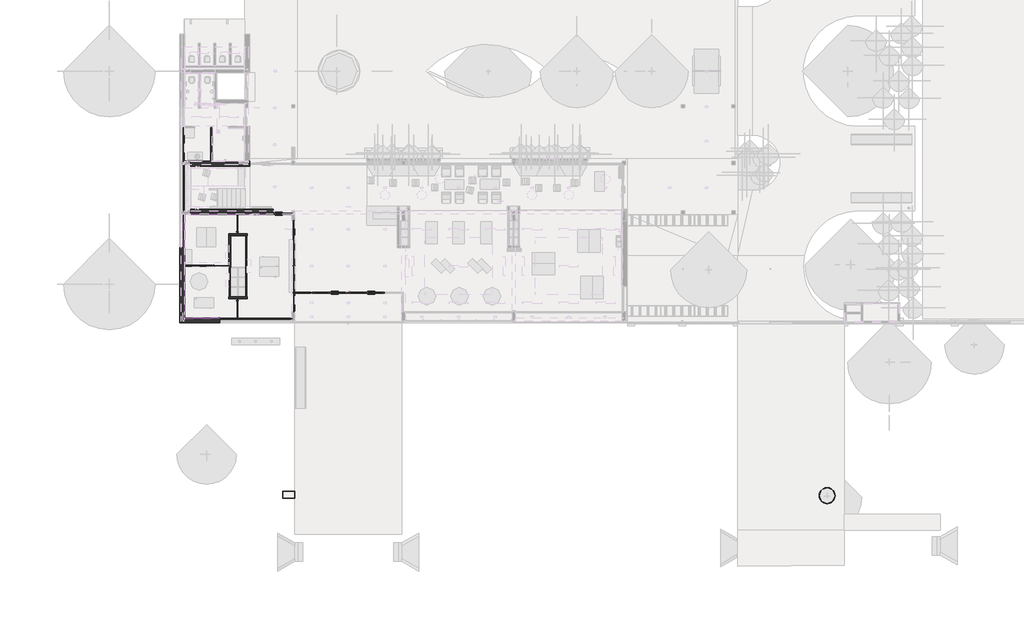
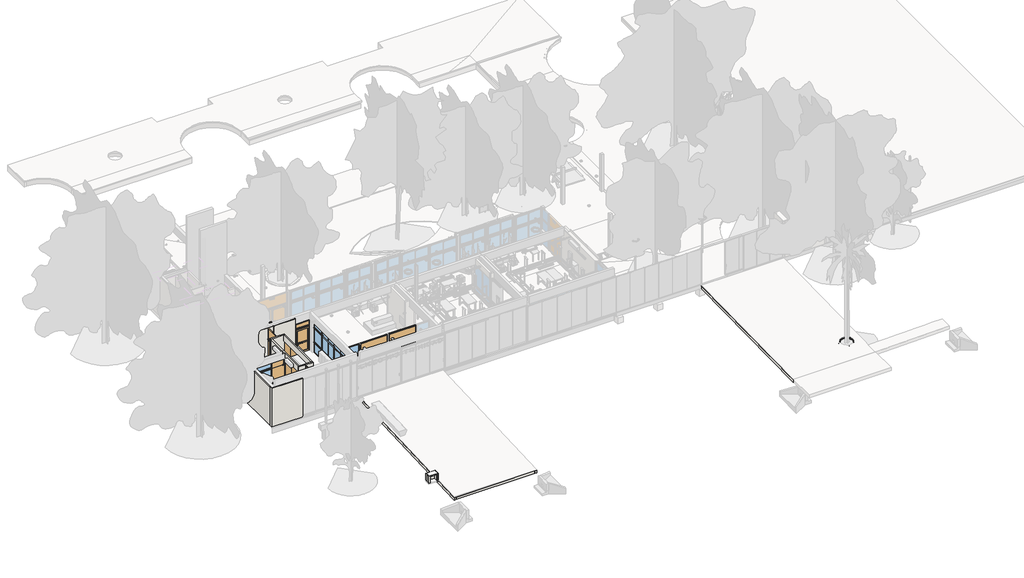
# One storey, part 1 of 22: 28 walls, 9 windows, 8 doors, 3 proxies.
"""IFC4 building model written with IfcOpenShell, lengths in millimetres."""

from ifc_helpers import new_model, si_unit, frame, origin, origin_with_axes, place, context, project, spatial, polyline, circle_curve, ellipse_curve, outline, extrude, faceted_brep, transform, mapped, element, save
from ifc_brep_helpers import plane_surface, cylinder_surface, revolved_surface, advanced_brep
from components import door_3974ce79, door_9b7d2ef3, door_4a2cc50b, door_8208235d, door_8a4f658c, door_8d857a0f, door_438542e8, window_07e8df99, window_2e903966, window_6422c5cf, window_60c9f324, window_36055f7e, a16_ventana_pc_1_hoja_a16_3_ventana_pc_1_hoja_100x310_444eb42e, a16_ventana_pc_1_hoja_a16_5_ventana_pc_1_hoja_115x260_6798fd23, a16_ventana_pc_1_hoja_a16_7_ventana_pc_1_hoja_171x260_4f929025

model = new_model("IFC4")

# Units and contexts
model_context = context("Model", 3, world=origin())
ifc_project = project(units=[si_unit("LENGTHUNIT", "METRE", prefix="MILLI")], contexts=[model_context])

# Site, building, storey
site = spatial("IfcSite", under=ifc_project)
building = spatial("IfcBuilding", under=site)
storey = spatial("IfcBuildingStorey", under=building, Name="PLanta baja", Elevation=0.0)

# Proxies
placement = place(None, origin())
element("IfcBuildingElementProxy", 1, Name="23-TEL-JUNTA 10x10", ObjectType="23-TEL-JUNTA 10x10", at=placement, inside=storey, context=model_context, shape_type="SweptSolid", body=[
    extrude(outline(polyline([(7168.7173694, 7005.2304035), (7168.7173694, 7015.2304035), (8938.7173694, 7015.2304035), (8938.7173694, 7005.2304035), (7168.7173694, 7005.2304035)])), frame((0.0, 0.0, 3090.0), z_axis=(0.0, 0.0, 1.0), x_axis=(1.0, 0.0, 0.0)), (0.0, 0.0, 1.0), 10.0),
    extrude(outline(polyline([(3788.7173693, 7005.2304035), (3788.7173693, 7015.2304035), (7168.7173694, 7015.2304035), (7168.7173694, 7005.2304035), (3788.7173693, 7005.2304035)])), frame((0.0, 0.0, 3090.0), z_axis=(0.0, 0.0, 1.0), x_axis=(1.0, 0.0, 0.0)), (0.0, 0.0, 1.0), 10.0),
])
element("IfcBuildingElementProxy", 2, Name="23-TEL-JUNTA 10x10", ObjectType="23-TEL-JUNTA 10x10", at=placement, inside=storey, context=model_context, shape_type="SweptSolid", body=[
    extrude(outline(polyline([(3403.7173694, 510.2304035), (3393.7173694, 500.2304035), (3393.7173694, 4919.6164813), (3403.7173694, 4919.6164813), (3403.7173694, 510.2304035)])), frame((0.0, 0.0, 3090.0), z_axis=(0.0, 0.0, 1.0), x_axis=(1.0, 0.0, 0.0)), (0.0, 0.0, 1.0), 10.0),
    extrude(outline(polyline([(3393.7173694, 7020.2304035), (3403.7173694, 7020.2304035), (3403.7173694, 4919.6164813), (3393.7173694, 4919.6164813), (3393.7173694, 7020.2304035)])), frame((0.0, 0.0, 3090.0), z_axis=(0.0, 0.0, 1.0), x_axis=(1.0, 0.0, 0.0)), (0.0, 0.0, 1.0), 10.0),
])
element("IfcBuildingElementProxy", 3, Name="23-TEL-JUNTA 10x10", ObjectType="23-TEL-JUNTA 10x10", at=placement, inside=storey, context=model_context, shape_type="SweptSolid", body=[
    extrude(outline(polyline([(5588.7173693, 510.2304035), (5588.7173693, 500.2304035), (3393.7173694, 500.2304035), (3403.7173694, 510.2304035), (5588.7173693, 510.2304035)])), frame((0.0, 0.0, 3090.0), z_axis=(0.0, 0.0, 1.0), x_axis=(1.0, 0.0, 0.0)), (0.0, 0.0, 1.0), 10.0),
])

# Doors
door_shape = door_3974ce79(model_context)
element("IfcDoor", 4, ObjectType="C5 Puerta corrediza placar 4 hojas : C5 PUERTA CORREDIZA PLACAR 4 HOJAS 384x260", at=placement, inside=storey, context=model_context, shape_type="MappedRepresentation", body=[
    mapped(door_shape, transform((7256.2173693, 3760.2304035, -50.0), x_axis=(0.0, -1.0, 0.0), y_axis=(1.0, 0.0, 0.0), z_axis=(0.0, 0.0, 1.0))),
])
door_2_shape = door_9b7d2ef3(model_context)
element("IfcDoor", 5, ObjectType="C4 Puerta corrediza placar 2 hojas : C4.1 PUERTA CORREDIZA PLACAR 2 HOJAS 185x260", at=placement, inside=storey, context=model_context, shape_type="MappedRepresentation", body=[
    mapped(door_2_shape, transform((6221.2173693, 2760.2304035, -50.0), x_axis=(0.0, -1.0, 0.0), y_axis=(1.0, 0.0, 0.0), z_axis=(0.0, 0.0, 1.0))),
])
door_3_shape = door_4a2cc50b(model_context)
element("IfcDoor", 6, ObjectType="A1 Puerta batiente doble  VF superior : A1.1 Puerta batiente doble  VF superior 222x310", at=placement, inside=storey, context=model_context, shape_type="MappedRepresentation", body=[
    mapped(door_3_shape, transform((12488.7173693, 2107.7304035, 0.0), x_axis=(-1.0, 0.0, 0.0), y_axis=(0.0, -1.0, 0.0), z_axis=(0.0, 0.0, 1.0))),
])
element("IfcDoor", 7, ObjectType="A1 Puerta batiente doble  VF superior : A1.1 Puerta batiente doble  VF superior 222x310", at=placement, inside=storey, context=model_context, shape_type="MappedRepresentation", body=[
    mapped(door_3_shape, transform((14788.7173694, 2107.7304035, 0.0), x_axis=(-1.0, 0.0, 0.0), y_axis=(0.0, -1.0, 0.0), z_axis=(0.0, 0.0, 1.0))),
])
door_4_shape = door_8208235d(model_context)
element("IfcDoor", 8, ObjectType="V03 VIDRIO PUERTA BATIENTE VIDRIO FIJO SUPERIOR : V03.2 VIDRIO PUERTA BATIENTE VIDRIO FIJO SUPERIOR 105x310", at=placement, inside=storey, context=model_context, shape_type="MappedRepresentation", body=[
    mapped(door_4_shape, transform((6701.2173694, 6210.2304035, 0.0), x_axis=(0.0, -1.0, 0.0), y_axis=(1.0, 0.0, 0.0), z_axis=(0.0, 0.0, 1.0))),
])
door_5_shape = door_8a4f658c(model_context)
element("IfcDoor", 9, ObjectType="V03 VIDRIO PUERTA BATIENTE VIDRIO FIJO SUPERIOR : V03.1 VIDRIO PUERTA BATIENTE VIDRIO FIJO SUPERIOR 105x260", at=placement, inside=storey, context=model_context, shape_type="MappedRepresentation", body=[
    mapped(door_5_shape, transform((5368.7173693, 3782.7304035, 0.0), x_axis=(-1.0, 0.0, 0.0), y_axis=(0.0, -1.0, 0.0), z_axis=(0.0, 0.0, 1.0))),
])
door_6_shape = door_8d857a0f(model_context)
element("IfcDoor", 10, ObjectType="V03 VIDRIO PUERTA BATIENTE VIDRIO FIJO SUPERIOR : V03.2 VIDRIO PUERTA BATIENTE VIDRIO FIJO SUPERIOR 105x310", at=placement, inside=storey, context=model_context, shape_type="MappedRepresentation", body=[
    mapped(door_6_shape, transform((6701.2173694, 1305.2304035, 0.0), x_axis=(0.0, 1.0, 0.0), y_axis=(-1.0, 0.0, 0.0), z_axis=(0.0, 0.0, 1.0))),
])
door_7_shape = door_438542e8(model_context)
element("IfcDoor", 11, ObjectType="A3 Puerta batiente exterior VF superior : A3.3 Puerta batiente simple-exterior 115X260", at=placement, inside=storey, context=model_context, shape_type="MappedRepresentation", body=[
    mapped(door_7_shape, transform((9513.7173694, 7053.2304035, 0.0), x_axis=(-1.0, 0.0, 0.0), y_axis=(0.0, -1.0, 0.0), z_axis=(0.0, 0.0, 1.0))),
])

# Walls
element("IfcWall", 12, ObjectType="MURO-INT/INT-M22b-11.5cm-hceram210cm-PET", at=placement, inside=storey, context=model_context, shape_type="Brep", body=[
    faceted_brep([(5133.7173694, 12410.2304035, 3100.0), (5133.7173694, 12405.2304035, 3100.0), (5133.7173694, 10340.2304035, 3100.0), (5133.7173694, 10340.2304035, 2103.3), (5133.7173694, 12410.2304035, 2103.3), (5133.7173694, 12410.2304035, 2100.0), (5133.7173694, 10340.2304035, 2100.0), (5133.7173694, 10340.2304035, 0.0), (5133.7173694, 12410.2304035, 0.0), (5018.7173694, 10335.2304035, 3100.0), (5018.7173694, 12410.2304035, 3100.0), (5018.7173694, 12410.2304035, 2600.0), (5018.7173694, 12410.2304035, 0.0), (5018.7173694, 10335.2304035, 0.0), (5076.2173694, 10335.2304035, 3100.0), (5076.2173694, 10340.2304035, 3100.0), (5076.2173694, 10340.2304035, 0.0), (5118.7173694, 10340.2304035, 0.0), (5123.8173694, 10340.2304035, 2100.0), (5123.8173694, 10340.2304035, 2103.3), (5123.8173694, 12410.2304035, 2103.3), (5123.8173694, 12410.2304035, 2100.0), (5076.2173694, 10335.2304035, 0.0)], [[[0, 1, 2, 3, 4]], [[5, 6, 7, 8]], [[9, 10, 11, 12, 13]], [[2, 1, 0, 10, 9, 14, 15]], [[2, 15, 16, 17, 7, 6, 18, 19, 3]], [[10, 0, 4, 20, 21, 5, 8, 12, 11]], [[15, 14, 22, 16]], [[14, 9, 13, 22]], [[6, 5, 21, 18]], [[19, 20, 4, 3]], [[18, 21, 20, 19]], [[8, 7, 17, 16, 22, 13, 12]]]),
])
element("IfcWall", 13, ObjectType="MURO-Aloja ventanas aluminio-7.5cm-PET", at=placement, inside=storey, context=model_context, shape_type="SweptSolid", body=[
    extrude(outline(polyline([(10288.7173693, 2070.2304035), (10288.7173693, 2145.2304035), (10294.9673693, 2145.2304035), (10294.9673693, 2070.2304035), (10288.7173693, 2070.2304035)])), origin_with_axes(), (0.0, 0.0, 1.0), 3000.0),
    extrude(outline(polyline([(11301.2173693, 2145.2304035), (11301.2173693, 2070.2304035), (11294.9673693, 2070.2304035), (11294.9673693, 2145.2304035), (11301.2173693, 2145.2304035)])), origin_with_axes(), (0.0, 0.0, 1.0), 3000.0),
])
element("IfcWall", 14, ObjectType="TABI-INT/INT-M30i-11.5cm-PET", at=placement, inside=storey, context=model_context, shape_type="Brep", body=[
    faceted_brep([(7313.7173693, 1835.2304035, 0.0), (7198.7173693, 1835.2304035, 0.0), (6163.7173693, 1835.2304035, 0.0), (6163.7173693, 1835.2304035, 50.0), (6163.7173693, 1835.2304035, 2600.0), (6163.7173693, 1835.2304035, 3100.0), (6278.7173693, 1835.2304035, 3100.0), (7198.7173693, 1835.2304035, 3100.0), (7313.7173693, 1835.2304035, 3100.0), (7313.7173693, 1835.2304035, 50.0), (6163.7173693, 1720.2304035, 0.0), (7313.7173693, 1720.2304035, 0.0), (7313.7173693, 1720.2304035, 50.0), (7313.7173693, 1720.2304035, 3100.0), (6163.7173693, 1720.2304035, 3100.0), (6163.7173693, 1720.2304035, 50.0)], [[[0, 1, 2, 3, 4, 5, 6, 7, 8, 9]], [[10, 11, 12, 13, 14, 15]], [[2, 1, 0, 11, 10]], [[2, 10, 15, 14, 5, 4, 3]], [[8, 7, 6, 5, 14, 13]], [[8, 13, 12, 11, 0, 9]]]),
])
element("IfcWall", 15, ObjectType="TABI-INT/INT-M30i-11.5cm-PET", at=placement, inside=storey, context=model_context, shape_type="Brep", body=[
    faceted_brep([(7313.7173693, 5795.2304035, 0.0), (6163.7173693, 5795.2304035, 0.0), (6163.7173693, 5795.2304035, 50.0), (6163.7173693, 5795.2304035, 3100.0), (7313.7173693, 5795.2304035, 3100.0), (7313.7173693, 5795.2304035, 50.0), (6163.7173693, 5680.2304035, 0.0), (6278.7173693, 5680.2304035, 0.0), (7313.7173693, 5680.2304035, 0.0), (7313.7173693, 5680.2304035, 50.0), (7313.7173693, 5680.2304035, 2600.0), (7313.7173693, 5680.2304035, 3100.0), (7198.7173693, 5680.2304035, 3100.0), (6278.7173693, 5680.2304035, 3100.0), (6163.7173693, 5680.2304035, 3100.0), (6163.7173693, 5680.2304035, 50.0)], [[[0, 1, 2, 3, 4, 5]], [[6, 7, 8, 9, 10, 11, 12, 13, 14, 15]], [[1, 0, 8, 7, 6]], [[4, 3, 14, 13, 12, 11]], [[4, 11, 10, 9, 8, 0, 5]], [[1, 6, 15, 14, 3, 2]]]),
])
element("IfcWall", 16, ObjectType="TABI-INT/INT-M30i-11.5cm-PET", at=placement, inside=storey, context=model_context, shape_type="Brep", body=[
    faceted_brep([(6163.7173693, 1835.2304035, 3100.0), (6163.7173693, 5680.2304035, 3100.0), (6163.7173693, 5680.2304035, 50.0), (6163.7173693, 5680.2304035, 0.0), (6163.7173693, 3685.2304035, 0.0), (6163.7173693, 3685.2304035, 50.0), (6163.7173693, 3685.2304035, 2600.0), (6163.7173693, 1835.2304035, 2600.0), (6278.7173693, 5680.2304035, 3100.0), (6278.7173693, 1835.2304035, 3100.0), (6278.7173693, 1835.2304035, 2600.0), (6278.7173693, 3685.2304035, 2600.0), (6278.7173693, 3685.2304035, 0.0), (6278.7173693, 5680.2304035, 0.0)], [[[0, 1, 2, 3, 4, 5, 6, 7]], [[8, 9, 10, 11, 12, 13]], [[3, 13, 12, 4]], [[1, 0, 9, 8]], [[1, 8, 13, 3, 2]], [[6, 11, 10, 7]], [[11, 6, 5, 4, 12]], [[9, 0, 7, 10]]]),
])
element("IfcWall", 17, ObjectType="TABI-INT/INT-M30i-11.5cm-PET", at=placement, inside=storey, context=model_context, shape_type="SweptSolid", body=[
    extrude(outline(polyline([(1835.2304035, 3100.0), (5680.2304035, 3100.0), (5680.2304035, 2600.0), (1840.2304035, 2600.0), (1840.2304035, 0.0), (1835.2304035, 0.0), (1835.2304035, 3100.0)])), frame((7198.7173693, 0.0, 0.0), z_axis=(1.0, 0.0, 0.0), x_axis=(0.0, 1.0, 0.0)), (0.0, 0.0, 1.0), 115.0),
])
element("IfcWall", 18, ObjectType="REVE-INT-Revoque-1.5cm-PET", at=placement, inside=storey, context=model_context, shape_type="SweptSolid", body=[
    extrude(outline(polyline([(3788.7173694, 10320.2304035), (3388.7173694, 10320.2304035), (3388.7173694, 10335.2304035), (3788.7173694, 10335.2304035), (3788.7173694, 10320.2304035)])), origin_with_axes(), (0.0, 0.0, 1.0), 3100.0),
])
element("IfcWall", 19, ObjectType="MURO-EXT/INT-M1c-33cm-hceram210cm-PET-fachada", at=placement, inside=storey, context=model_context, shape_type="Brep", body=[
    faceted_brep([(7168.7173693, 10340.2304035, 2600.0), (7368.7173693, 10340.2304035, 2600.0), (7368.7173693, 10340.2304035, 3100.0), (7478.7173693, 10340.2304035, 3100.0), (7478.7173693, 10340.2304035, -50.0), (7168.7173694, 10340.2304035, -50.0), (7168.7173694, 10340.2304035, -49.7260274), (7158.3031452, 10340.2304035, -50.0), (7148.7173693, 10340.2304035, -50.0), (5133.7173694, 10340.2304035, -50.0), (5118.7173694, 10340.2304035, -50.0), (5118.7173694, 10340.2304035, 0.0), (5076.2173694, 10340.2304035, 0.0), (5076.2173694, 10340.2304035, 3100.0), (5133.7173694, 10340.2304035, 3100.0), (7148.7173693, 10340.2304035, 3100.0), (7168.7173693, 10340.2304035, 3100.0), (7158.6173693, 10340.2304035, 2103.3), (7148.7173693, 10340.2304035, 2103.3), (5133.7173694, 10340.2304035, 2103.3), (5123.8173694, 10340.2304035, 2103.3), (5123.8173694, 10340.2304035, 2100.0), (5133.7173694, 10340.2304035, 2100.0), (7148.7173693, 10340.2304035, 2100.0), (7158.6173693, 10340.2304035, 2100.0), (5076.2173694, 10010.2304035, -50.0), (7478.7173693, 10010.2304035, -50.0), (7478.7173693, 10010.2304035, 3100.0), (7188.7173693, 10010.2304035, 3100.0), (7188.7173693, 10010.2304035, 3260.0), (5076.2173694, 10010.2304035, 3260.0), (5076.2173694, 10320.2304035, -50.0), (5076.2173694, 10335.2304035, -50.0), (5118.7173694, 10335.2304035, -50.0), (7168.7173694, 10320.2304035, -50.0), (6768.7173693, 10320.2304035, -50.0), (6768.7173693, 10120.2304035, -50.0), (7368.7173693, 10120.2304035, -50.0), (7368.7173693, 10320.2304035, -50.0), (7188.7173693, 10060.2304035, 3260.0), (5076.2173694, 10060.2304035, 3260.0), (5076.2173694, 10060.2304035, 3100.0), (5076.2173694, 10120.2304035, 3100.0), (5076.2173694, 10120.2304035, 2600.0), (5076.2173694, 10320.2304035, 2600.0), (5076.2173694, 10320.2304035, 3100.0), (5076.2173694, 10335.2304035, 3100.0), (5076.2173694, 10335.2304035, 0.0), (7368.7173693, 10320.2304035, 2600.0), (7168.7173693, 10320.2304035, 2600.0), (7168.7173693, 10320.2304035, 3100.0), (6768.7173693, 10320.2304035, 2600.0), (6768.7173693, 10120.2304035, 2600.0), (7368.7173693, 10120.2304035, 3100.0), (7368.7173693, 10120.2304035, 2600.0), (7158.6173693, 10330.3304035, 2103.3), (5123.8173694, 10330.3304035, 2103.3), (7158.6173693, 10330.3304035, 2100.0), (5123.8173694, 10330.3304035, 2100.0), (7188.7173693, 10060.2304035, 3100.0), (5118.7173694, 10335.2304035, 0.0)], [[[0, 1, 2, 3, 4, 5, 6, 7, 8, 9, 10, 11, 12, 13, 14, 15, 16], [17, 18, 19, 20, 21, 22, 23, 24]], [[25, 26, 27, 28, 29, 30]], [[26, 25, 31, 32, 33, 10, 9, 8, 7, 34, 35, 36, 37, 38, 34, 5, 4]], [[30, 29, 39, 40]], [[25, 30, 40, 41, 42, 43, 44, 45, 46, 13, 12, 47, 32, 31]], [[26, 4, 3, 27]], [[38, 48, 49, 50, 45, 44, 51, 35, 34]], [[35, 51, 52, 36]], [[36, 52, 43, 42, 53, 54, 37]], [[48, 38, 37, 54, 53, 2, 1]], [[55, 56, 20, 19, 18, 17]], [[57, 55, 17, 24]], [[58, 57, 24, 23, 22, 21]], [[56, 55, 57, 58]], [[56, 58, 21, 20]], [[49, 0, 16, 50]], [[0, 49, 48, 1]], [[43, 52, 51, 44]], [[16, 15, 14, 13, 46, 45, 50]], [[41, 59, 28, 27, 3, 2, 53, 42]], [[59, 39, 29, 28]], [[39, 59, 41, 40]], [[34, 6, 5]], [[6, 34, 7]], [[11, 60, 47, 12]], [[60, 33, 32, 47]], [[60, 11, 10, 33]]]),
])
element("IfcWall", 20, ObjectType="REVE-INT-Cerámico30x30-1cm-PET", at=placement, inside=storey, context=model_context, shape_type="SweptSolid", body=[
    extrude(outline(polyline([(4486.4575549, 10345.2304035), (4486.4575549, 10335.2304035), (3593.0575549, 10335.2304035), (3593.0575549, 10345.2304035), (4486.4575549, 10345.2304035)])), frame((0.0, 0.0, 900.0), z_axis=(0.0, 0.0, 1.0), x_axis=(1.0, 0.0, 0.0)), (0.0, 0.0, 1.0), 600.0),
])
element("IfcWall", 21, ObjectType="MURO-EXT/NICHOS-M1-11cm-PET", at=placement, inside=storey, context=model_context, shape_type="Brep", body=[
    faceted_brep([(10288.7173694, -10316.6343451, -500.0), (9528.7173694, -10316.6343451, -500.0), (9528.7173694, -10316.6343451, 90.0), (10288.7173694, -10316.6343451, 90.0), (9528.7173694, -10426.6343451, -500.0), (9638.7173694, -10426.6343451, -500.0), (10178.7173694, -10426.6343451, -500.0), (10288.7173694, -10426.6343451, -500.0), (10288.7173694, -10426.6343451, 90.0), (10258.7173694, -10426.6343451, 90.0), (10258.7173694, -10426.6343451, 60.0), (10178.7173694, -10426.6343451, 60.0), (9638.7173694, -10426.6343451, 60.0), (9558.7173694, -10426.6343451, 60.0), (9558.7173694, -10426.6343451, 90.0), (9528.7173694, -10426.6343451, 90.0), (9558.7173694, -10346.6343451, 90.0), (10258.7173694, -10346.6343451, 90.0), (10258.7173694, -10346.6343451, 60.0), (9558.7173694, -10346.6343451, 60.0)], [[[0, 1, 2, 3]], [[4, 5, 6, 7, 8, 9, 10, 11, 12, 13, 14, 15]], [[1, 0, 7, 6, 5, 4]], [[3, 2, 15, 14, 16, 17, 9, 8]], [[2, 1, 4, 15]], [[0, 3, 8, 7]], [[18, 19, 13, 12, 11, 10]], [[13, 19, 16, 14]], [[19, 18, 17, 16]], [[18, 10, 9, 17]]]),
])
element("IfcWall", 22, ObjectType="MURO-EXT/NICHOS-M1-11cm-PET", at=placement, inside=storey, context=model_context, shape_type="Brep", body=[
    faceted_brep([(9528.7173694, -10426.6343451, -500.0), (9528.7173694, -10771.6343451, -500.0), (9528.7173694, -10771.6343451, 90.0), (9528.7173694, -10426.6343451, 90.0), (9638.7173694, -10771.6343451, 90.0), (9638.7173694, -10771.6343451, 29.3), (9638.7173694, -10661.6343451, 29.3), (9638.7173694, -10661.6343451, -500.0), (9638.7173694, -10426.6343451, -500.0), (9638.7173694, -10426.6343451, 60.0), (9638.7173694, -10661.6343451, 60.0), (9638.7173694, -10741.6343451, 60.0), (9638.7173694, -10741.6343451, 90.0), (9633.7173694, -10661.6343451, -500.0), (9633.7173694, -10771.6343451, -500.0), (9558.7173694, -10741.6343451, 90.0), (9558.7173694, -10426.6343451, 90.0), (9558.7173694, -10426.6343451, 60.0), (9633.7173694, -10771.6343451, 29.3), (9633.7173694, -10661.6343451, 29.3), (9558.7173694, -10741.6343451, 60.0)], [[[0, 1, 2, 3]], [[4, 5, 6, 7, 8, 9, 10, 11, 12]], [[1, 0, 8, 7, 13, 14]], [[3, 2, 4, 12, 15, 16]], [[0, 3, 16, 17, 9, 8]], [[2, 1, 14, 18, 5, 4]], [[6, 19, 13, 7]], [[18, 19, 6, 5]], [[19, 18, 14, 13]], [[20, 11, 10, 9, 17]], [[20, 17, 16, 15]], [[11, 20, 15, 12]]]),
])
element("IfcWall", 23, ObjectType="MURO-EXT/NICHOS-M1-11cm-PET", at=placement, inside=storey, context=model_context, shape_type="Brep", body=[
    faceted_brep([(10288.7173694, -10771.6343451, 90.0), (9638.7173694, -10771.6343451, 90.0), (9638.7173694, -10771.6343451, 29.3), (10188.7173694, -10771.6343451, 29.3), (10188.7173694, -10771.6343451, -500.0), (10288.7173694, -10771.6343451, -500.0), (10288.7173694, -10661.6343451, 90.0), (10288.7173694, -10661.6343451, -500.0), (10188.7173694, -10661.6343451, -500.0), (10188.7173694, -10661.6343451, 29.3), (9638.7173694, -10661.6343451, 29.3), (9638.7173694, -10661.6343451, 60.0), (10178.7173694, -10661.6343451, 60.0), (10258.7173694, -10661.6343451, 60.0), (10258.7173694, -10661.6343451, 90.0), (10258.7173694, -10741.6343451, 90.0), (9638.7173694, -10741.6343451, 90.0), (9638.7173694, -10741.6343451, 60.0), (10258.7173694, -10741.6343451, 60.0)], [[[0, 1, 2, 3, 4, 5]], [[6, 7, 8, 9, 10, 11, 12, 13, 14]], [[7, 5, 4, 8]], [[1, 0, 6, 14, 15, 16]], [[2, 1, 16, 17, 11, 10]], [[0, 5, 7, 6]], [[3, 2, 10, 9]], [[3, 9, 8, 4]], [[17, 18, 13, 12, 11]], [[13, 18, 15, 14]], [[18, 17, 16, 15]]]),
])
element("IfcWall", 24, ObjectType="MURO-EXT/NICHOS-M1-11cm-PET", at=placement, inside=storey, context=model_context, shape_type="Brep", body=[
    faceted_brep([(10288.7173694, -10661.6343451, -500.0), (10288.7173694, -10426.6343451, -500.0), (10288.7173694, -10426.6343451, 90.0), (10288.7173694, -10661.6343451, 90.0), (10178.7173694, -10426.6343451, -500.0), (10178.7173694, -10661.6343451, -500.0), (10178.7173694, -10661.6343451, 60.0), (10178.7173694, -10426.6343451, 60.0), (10188.7173694, -10661.6343451, -500.0), (10258.7173694, -10426.6343451, 90.0), (10258.7173694, -10661.6343451, 90.0), (10258.7173694, -10661.6343451, 60.0), (10258.7173694, -10426.6343451, 60.0)], [[[0, 1, 2, 3]], [[4, 5, 6, 7]], [[1, 0, 8, 5, 4]], [[3, 2, 9, 10]], [[0, 3, 10, 11, 6, 5, 8]], [[2, 1, 4, 7, 12, 9]], [[11, 12, 7, 6]], [[12, 11, 10, 9]]]),
])
element("IfcWall", 25, ObjectType="CORD-C2-Cordoneta adoquines-15x20cm-PET", at=placement, inside=storey, context=model_context, shape_type="Brep", body=[
    faceted_brep([(16838.7173694, 210.2304035, -300.0), (16838.7173694, -13010.358923, -854.0), (16838.7173694, -13010.358923, -644.0), (16838.7173694, -12860.358923, -637.7143498), (16838.7173694, 210.2304035, -90.0), (16988.7173694, 210.2304035, -300.0), (16988.7173694, 210.2304035, -90.0), (16988.7173694, -13010.358923, -644.0), (16988.7173694, -13010.358923, -854.0)], [[[0, 1, 2, 3, 4]], [[5, 6, 7, 8]], [[0, 4, 6, 5]], [[1, 0, 5, 8]], [[2, 1, 8, 7]], [[4, 3, 2, 7, 6]]]),
])
element("IfcWall", 26, ObjectType="CORD-C2-Cordoneta adoquines-15x20cm-PET", at=placement, inside=storey, context=model_context, shape_type="Brep", body=[
    faceted_brep([(10288.7173694, 210.2304035, -300.0), (10288.7173694, -13010.358923, -854.0), (10288.7173694, -13010.358923, -644.0), (10288.7173694, 210.2304035, -90.0), (10438.7173694, 210.2304035, -300.0), (10438.7173694, 210.2304035, -90.0), (10438.7173694, -12860.358923, -637.7143498), (10438.7173694, -13010.358923, -644.0), (10438.7173694, -13010.358923, -854.0)], [[[0, 1, 2, 3]], [[4, 5, 6, 7, 8]], [[0, 3, 5, 4]], [[1, 0, 4, 8]], [[2, 1, 8, 7]], [[3, 2, 7, 6, 5]]]),
])
element("IfcWall", 27, ObjectType="CORD-C2-Cordoneta adoquines-15x20cm-PET", at=placement, inside=storey, context=model_context, shape_type="SweptSolid", body=[
    extrude(outline(polyline([(-12860.358923, -637.7143498), (-12860.358923, -854.0), (-13010.358923, -854.0), (-13010.358923, -644.0), (-12860.358923, -637.7143498)])), frame((10438.7173694, 0.0, 0.0), z_axis=(1.0, 0.0, 0.0), x_axis=(0.0, 1.0, 0.0)), (0.0, 0.0, 1.0), 6400.0),
])
element("IfcWall", 28, ObjectType="CORD-C2-Cordoneta adoquines-15x20cm-PET", at=placement, inside=storey, context=model_context, shape_type="Brep", body=[
    faceted_brep([(37998.4930104, -12767.0291637, -571.4532338), (37998.4930104, -12767.0291637, -361.4532338), (37998.4930104, 160.2304035, -110.9688225), (37998.4930104, 160.2304035, -320.9688225), (38148.4930104, -12767.0291637, -361.4532338), (38148.4930104, -12767.0291637, -570.0), (38148.4930104, -12767.0291637, -571.4532338), (38148.4930104, 160.2304035, -320.9688225), (38148.4930104, 160.2304035, -110.9688225)], [[[0, 1, 2, 3]], [[4, 5, 6, 7, 8]], [[6, 0, 3, 7]], [[1, 4, 8, 2]], [[1, 0, 6, 5, 4]], [[3, 2, 8, 7]]]),
])
element("IfcWall", 29, ObjectType="CORD-C2-Cordoneta adoquines-15x20cm-PET", at=placement, inside=storey, context=model_context, shape_type="Brep", body=[
    faceted_brep([(44538.7173693, -12767.0291637, -571.4532338), (44538.7173693, -12767.0291637, -570.0), (44538.7173693, -12767.0291637, -361.4532338), (44538.7173693, 160.2304035, -110.9688225), (44538.7173693, 160.2304035, -320.9688225), (44688.7173693, -12767.0291637, -361.4532338), (44688.7173693, -12767.0291637, -571.4532338), (44688.7173693, 160.2304035, -320.9688225), (44688.7173693, 160.2304035, -110.9688225)], [[[0, 1, 2, 3, 4]], [[5, 6, 7, 8]], [[6, 0, 4, 7]], [[2, 5, 8, 3]], [[2, 1, 0, 6, 5]], [[4, 3, 8, 7]]]),
])
element("IfcWall", 30, ObjectType="CORD-C2-Cordoneta adoquines-15x20cm-PET", at=placement, inside=storey, context=model_context, shape_type="Brep", body=[
    faceted_brep([(44538.7173693, -12617.0291637, -570.0), (38148.4930104, -12617.0291637, -570.0), (38148.4930104, -12617.0291637, -357.1103298), (44538.7173693, -12617.0291637, -357.1103298), (44538.7173693, -12767.0291637, -570.0), (44538.7173693, -12767.0291637, -361.4532338), (44538.7173693, -12767.0291637, -360.0), (38148.4930104, -12767.0291637, -360.0), (38148.4930104, -12767.0291637, -361.4532338), (38148.4930104, -12767.0291637, -570.0)], [[[0, 1, 2, 3]], [[4, 5, 6, 7, 8, 9]], [[1, 0, 4, 9]], [[3, 2, 7, 6]], [[0, 3, 6, 5, 4]], [[2, 1, 9, 8, 7]]]),
])
element("IfcWall", 31, ObjectType="CORD-C2-Cordoneta adoquines-15x20cm-PET", at=placement, inside=storey, context=model_context, shape_type="AdvancedBrep", body=[
    advanced_brep(
    [(44102.7825237, -10593.5413867, -550.0), (43102.7825237, -10593.5413867, -550.0), (42952.7825237, -10593.5413867, -550.0), (44252.7825237, -10593.5413867, -550.0), (44102.7825237, -10593.5413867, -370.5627421), (43102.7825237, -10593.5413867, -370.5627421), (44252.7825237, -10593.5413867, -370.5627421), (42952.7825237, -10593.5413867, -370.5627421)],
    [
        (0, 1, circle_curve(frame((43602.7825237, -10593.5413867, -550.0), z_axis=(0.0, 0.0, 1.0), x_axis=(1.0, 0.0, 0.0)), 500.0)),
        (1, 2),
        (2, 3, circle_curve(frame((43602.7825237, -10593.5413867, -550.0), z_axis=(0.0, 0.0, -1.0), x_axis=(1.0, 0.0, 0.0)), 650.0)),
        (3, 0),
        (0, 4),
        (4, 5, ellipse_curve(frame((43602.7825237, -10593.5413867, -370.5627421), z_axis=(0.0, -0.01948604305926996, 0.9998101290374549), x_axis=(0.0, -0.9998101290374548, -0.01948604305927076)), 500.0949535, 500.0)),
        (5, 1),
        (3, 6),
        (6, 4),
        (2, 7),
        (7, 6, ellipse_curve(frame((43602.7825237, -10593.5413867, -370.5627421), z_axis=(0.0, 0.01948604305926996, -0.9998101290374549), x_axis=(0.0, 0.9998101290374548, 0.01948604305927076)), 650.1234396, 650.0)),
        (5, 7),
    ],
    [
        plane_surface(frame((44102.7825237, -10593.5413867, -550.0), z_axis=(0.0, 0.0, -1.0), x_axis=(0.0, 1.0, 0.0))),
        revolved_surface(polyline([(44102.7825237, -10593.5413867, -550.0), (44102.7825237, -10593.5413867, -360.817870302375)]), (43602.7825237, -10593.5413867, -550.0), (0.0, 0.0, -1.0)),
        plane_surface(frame((44102.7825237, -10593.5413867, -340.0), z_axis=(0.0, -1.0, 0.0), x_axis=(0.0, 0.0, -1.0))),
        cylinder_surface(frame((43602.7825237, -10593.5413867, -550.0), z_axis=(0.0, 0.0, 1.0), x_axis=(1.0, 0.0, 0.0)), 650.0),
        plane_surface(frame((42952.7825237, -10593.5413867, -340.0), z_axis=(0.0, -1.0, 0.0), x_axis=(0.0, 0.0, -1.0))),
        plane_surface(frame((41343.6051898, -6203.3993801, -285.0), z_axis=(0.0, -0.01948604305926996, 0.9998101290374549), x_axis=(-1.0, 0.0, 0.0))),
    ],
    [
        (0, [[1, 2, 3, 4]]),
        (1, [[-1, 5, 6, 7]]),
        (2, [[-4, 8, 9, -5]]),
        (3, [[-3, 10, 11, -8]]),
        (4, [[-2, -7, 12, -10]]),
        (5, [[-6, -9, -11, -12]]),
    ],
),
    advanced_brep(
    [(44102.7825237, -10593.5413867, -318.1289145), (43102.7825237, -10593.5413867, -318.1289145), (43102.7825237, -10593.5413867, -320.5627421), (44102.7825237, -10593.5413867, -320.5627421), (44252.7825237, -10593.5413867, -318.1289145), (44252.7825237, -10593.5413867, -320.5627421), (42952.7825237, -10593.5413867, -318.1289145), (42952.7825237, -10593.5413867, -320.5627421)],
    [
        (0, 1, ellipse_curve(frame((43602.7825237, -10593.5413867, -318.1289145), z_axis=(0.0, -0.019260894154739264, 0.9998144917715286), x_axis=(0.0, -0.9998144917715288, -0.019260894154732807)), 500.0927713, 500.0)),
        (1, 2),
        (2, 3, ellipse_curve(frame((43602.7825237, -10593.5413867, -320.5627421), z_axis=(0.0, 0.01948604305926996, -0.9998101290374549), x_axis=(0.0, -0.9998101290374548, -0.01948604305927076)), 500.0949535, 500.0)),
        (3, 0),
        (4, 0),
        (3, 5),
        (5, 4),
        (6, 4, ellipse_curve(frame((43602.7825237, -10593.5413867, -318.1289145), z_axis=(0.0, 0.019260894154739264, -0.9998144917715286), x_axis=(0.0, 0.9998144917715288, 0.019260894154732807)), 650.1206027, 650.0)),
        (5, 7, ellipse_curve(frame((43602.7825237, -10593.5413867, -320.5627421), z_axis=(0.0, -0.01948604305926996, 0.9998101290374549), x_axis=(0.0, 0.9998101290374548, 0.01948604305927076)), 650.1234396, 650.0)),
        (7, 6),
        (1, 6),
        (7, 2),
    ],
    [
        revolved_surface(polyline([(44102.7825237, -10593.5413867, -330.30761389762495), (44102.7825237, -10593.5413867, -308.4966805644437)]), (43602.7825237, -10593.5413867, -550.0), (0.0, 0.0, -1.0)),
        plane_surface(frame((44102.7825237, -10593.5413867, -340.0), z_axis=(0.0, -1.0, 0.0), x_axis=(0.0, 0.0, -1.0))),
        cylinder_surface(frame((43602.7825237, -10593.5413867, -550.0), z_axis=(0.0, 0.0, 1.0), x_axis=(1.0, 0.0, 0.0)), 650.0),
        plane_surface(frame((42952.7825237, -10593.5413867, -340.0), z_axis=(0.0, -1.0, 0.0), x_axis=(0.0, 0.0, -1.0))),
        plane_surface(frame((41343.6051898, -6278.3993801, -235.0), z_axis=(0.0, -0.019260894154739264, 0.9998144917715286), x_axis=(-1.0, 0.0, 0.0))),
        plane_surface(frame((41343.6051898, -6203.3993801, -235.0), z_axis=(0.0, 0.01948604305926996, -0.9998101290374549), x_axis=(-1.0, 0.0, 0.0))),
    ],
    [
        (0, [[1, 2, 3, 4]]),
        (1, [[5, -4, 6, 7]]),
        (2, [[8, -7, 9, 10]]),
        (3, [[11, -10, 12, -2]]),
        (4, [[-1, -5, -8, -11]]),
        (5, [[-3, -12, -9, -6]]),
    ],
),
])
element("IfcWall", 32, ObjectType="CORD-C2-Cordoneta adoquines-15x20cm-PET", at=placement, inside=storey, context=model_context, shape_type="AdvancedBrep", body=[
    advanced_brep(
    [(43102.7825237, -10593.5413867, -550.0), (44102.7825237, -10593.5413867, -550.0), (44252.7825237, -10593.5413867, -550.0), (42952.7825237, -10593.5413867, -550.0), (43102.7825237, -10593.5413867, -370.5627421), (44102.7825237, -10593.5413867, -370.5627421), (42952.7825237, -10593.5413867, -370.5627421), (44252.7825237, -10593.5413867, -370.5627421)],
    [
        (0, 1, circle_curve(frame((43602.7825237, -10593.5413867, -550.0), z_axis=(0.0, 0.0, 1.0), x_axis=(1.0, 0.0, 0.0)), 500.0)),
        (1, 2),
        (2, 3, circle_curve(frame((43602.7825237, -10593.5413867, -550.0), z_axis=(0.0, 0.0, -1.0), x_axis=(1.0, 0.0, 0.0)), 650.0)),
        (3, 0),
        (0, 4),
        (4, 5, ellipse_curve(frame((43602.7825237, -10593.5413867, -370.5627421), z_axis=(0.0, -0.01948604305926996, 0.9998101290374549), x_axis=(0.0, -0.9998101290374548, -0.01948604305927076)), 500.0949535, 500.0)),
        (5, 1),
        (3, 6),
        (6, 4),
        (2, 7),
        (7, 6, ellipse_curve(frame((43602.7825237, -10593.5413867, -370.5627421), z_axis=(0.0, 0.01948604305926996, -0.9998101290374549), x_axis=(0.0, 0.9998101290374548, 0.01948604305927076)), 650.1234396, 650.0)),
        (5, 7),
    ],
    [
        plane_surface(frame((44102.7825237, -10593.5413867, -550.0), z_axis=(0.0, 0.0, -1.0), x_axis=(0.0, 1.0, 0.0))),
        revolved_surface(polyline([(44102.7825237, -10593.5413867, -550.0), (44102.7825237, -10593.5413867, -360.817870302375)]), (43602.7825237, -10593.5413867, -550.0), (0.0, 0.0, -1.0)),
        plane_surface(frame((43102.7825237, -10593.5413867, -340.0), z_axis=(0.0, 1.0, 0.0), x_axis=(0.0, 0.0, -1.0))),
        cylinder_surface(frame((43602.7825237, -10593.5413867, -550.0), z_axis=(0.0, 0.0, 1.0), x_axis=(1.0, 0.0, 0.0)), 650.0),
        plane_surface(frame((44252.7825237, -10593.5413867, -340.0), z_axis=(0.0, 1.0, 0.0), x_axis=(0.0, 0.0, -1.0))),
        plane_surface(frame((41343.6051898, -6203.3993801, -285.0), z_axis=(0.0, -0.01948604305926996, 0.9998101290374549), x_axis=(-1.0, 0.0, 0.0))),
    ],
    [
        (0, [[1, 2, 3, 4]]),
        (1, [[-1, 5, 6, 7]]),
        (2, [[-4, 8, 9, -5]]),
        (3, [[-3, 10, 11, -8]]),
        (4, [[-2, -7, 12, -10]]),
        (5, [[-6, -9, -11, -12]]),
    ],
),
    advanced_brep(
    [(43102.7825237, -10593.5413867, -318.1289145), (44102.7825237, -10593.5413867, -318.1289145), (44102.7825237, -10593.5413867, -320.5627421), (43102.7825237, -10593.5413867, -320.5627421), (42952.7825237, -10593.5413867, -318.1289145), (42952.7825237, -10593.5413867, -320.5627421), (44252.7825237, -10593.5413867, -318.1289145), (44252.7825237, -10593.5413867, -320.5627421)],
    [
        (0, 1, ellipse_curve(frame((43602.7825237, -10593.5413867, -318.1289145), z_axis=(0.0, -0.019260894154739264, 0.9998144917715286), x_axis=(0.0, -0.9998144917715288, -0.019260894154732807)), 500.0927713, 500.0)),
        (1, 2),
        (2, 3, ellipse_curve(frame((43602.7825237, -10593.5413867, -320.5627421), z_axis=(0.0, 0.01948604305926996, -0.9998101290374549), x_axis=(0.0, -0.9998101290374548, -0.01948604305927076)), 500.0949535, 500.0)),
        (3, 0),
        (4, 0),
        (3, 5),
        (5, 4),
        (6, 4, ellipse_curve(frame((43602.7825237, -10593.5413867, -318.1289145), z_axis=(0.0, 0.019260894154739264, -0.9998144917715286), x_axis=(0.0, 0.9998144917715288, 0.019260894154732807)), 650.1206027, 650.0)),
        (5, 7, ellipse_curve(frame((43602.7825237, -10593.5413867, -320.5627421), z_axis=(0.0, -0.01948604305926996, 0.9998101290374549), x_axis=(0.0, 0.9998101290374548, 0.01948604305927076)), 650.1234396, 650.0)),
        (7, 6),
        (1, 6),
        (7, 2),
    ],
    [
        revolved_surface(polyline([(44102.7825237, -10593.5413867, -330.30761389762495), (44102.7825237, -10593.5413867, -308.4966805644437)]), (43602.7825237, -10593.5413867, -550.0), (0.0, 0.0, -1.0)),
        plane_surface(frame((43102.7825237, -10593.5413867, -340.0), z_axis=(0.0, 1.0, 0.0), x_axis=(0.0, 0.0, -1.0))),
        cylinder_surface(frame((43602.7825237, -10593.5413867, -550.0), z_axis=(0.0, 0.0, 1.0), x_axis=(1.0, 0.0, 0.0)), 650.0),
        plane_surface(frame((44252.7825237, -10593.5413867, -340.0), z_axis=(0.0, 1.0, 0.0), x_axis=(0.0, 0.0, -1.0))),
        plane_surface(frame((41343.6051898, -6278.3993801, -235.0), z_axis=(0.0, -0.019260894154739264, 0.9998144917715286), x_axis=(-1.0, 0.0, 0.0))),
        plane_surface(frame((41343.6051898, -6203.3993801, -235.0), z_axis=(0.0, 0.01948604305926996, -0.9998101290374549), x_axis=(-1.0, 0.0, 0.0))),
    ],
    [
        (0, [[1, 2, 3, 4]]),
        (1, [[5, -4, 6, 7]]),
        (2, [[8, -7, 9, 10]]),
        (3, [[11, -10, 12, -2]]),
        (4, [[-1, -5, -8, -11]]),
        (5, [[-3, -12, -9, -6]]),
    ],
),
])
element("IfcWall", 33, ObjectType="REVE-INT-Revoque-1.5cm-PET", at=placement, inside=storey, context=model_context, shape_type="SweptSolid", body=[
    extrude(outline(polyline([(3100.0, 3388.7173694), (2600.0, 3388.7173694), (2600.0, 3403.7173694), (3090.0, 3403.7173694), (3090.0, 3393.7173694), (3100.0, 3393.7173694), (3100.0, 3388.7173694)])), frame((0.0, 4919.6164813, 0.0), z_axis=(0.0, 1.0, 0.0), x_axis=(0.0, 0.0, 1.0)), (0.0, 0.0, 1.0), 2100.6139221),
])
element("IfcWall", 34, ObjectType="MURO-EXT/INT-M1a-30cm-PET", at=placement, inside=storey, context=model_context, shape_type="SweptSolid", body=[
    extrude(outline(polyline([(3378.7173694, 4919.6164813), (3078.7173694, 4919.6164813), (3078.7173694, 4920.2304035), (3378.7173694, 4920.2304035), (3378.7173694, 4919.6164813)])), origin_with_axes(), (0.0, 0.0, 1.0), 2600.0),
])
element("IfcWall", 35, ObjectType="MURO-EXT/INT-M1a-30cm-PET", at=placement, inside=storey, context=model_context, shape_type="Brep", body=[
    faceted_brep([(3078.7173694, 510.2304035, -50.0), (3078.7173694, 510.2304035, 3260.0), (3128.7173693, 510.2304035, 3260.0), (3128.7173693, 510.2304035, 3100.0), (3188.7173693, 510.2304035, 3100.0), (3188.7173693, 510.2304035, -50.0), (5588.7173693, 510.2304035, -50.0), (3403.7173694, 510.2304035, -50.0), (3388.7173693, 510.2304035, -50.0), (3388.7173693, 510.2304035, 3100.0), (3393.7173694, 510.2304035, 3100.0), (3393.7173694, 510.2304035, 3090.0), (3403.7173694, 510.2304035, 3090.0), (5588.7173693, 510.2304035, 3090.0), (3078.7173694, 210.2304035, -50.0), (5588.7173693, 210.2304035, -50.0), (5588.7173693, 210.2304035, 3100.0), (5588.7173693, 210.2304035, 3260.0), (3078.7173694, 210.2304035, 3260.0), (3188.7173693, 320.2304035, -50.0), (3388.7173693, 320.2304035, -50.0), (5588.7173693, 260.2304035, 3260.0), (3128.7173693, 260.2304035, 3260.0), (5588.7173693, 500.2304035, 3090.0), (5588.7173693, 500.2304035, 3100.0), (5588.7173693, 260.2304035, 3100.0), (3188.7173693, 320.2304035, 3100.0), (3188.7173693, 320.2304035, 2600.0), (3388.7173693, 320.2304035, 3100.0), (3388.7173693, 320.2304035, 2600.0), (3393.7173694, 500.2304035, 3090.0), (3393.7173694, 500.2304035, 3100.0), (3128.7173693, 260.2304035, 3100.0)], [[[0, 1, 2, 3, 4, 5]], [[6, 7, 8, 9, 10, 11, 12, 13]], [[14, 15, 16, 17, 18]], [[15, 14, 0, 5, 19, 20, 8, 7, 6]], [[18, 17, 21, 22, 2, 1]], [[15, 6, 13, 23, 24, 25, 21, 17, 16]], [[1, 0, 14, 18]], [[19, 5, 4, 26, 27]], [[20, 19, 27, 26, 28, 29]], [[8, 20, 29, 28, 9]], [[23, 30, 31, 24]], [[30, 23, 13, 12, 11]], [[31, 30, 11, 10]], [[10, 9, 28, 26, 4, 3, 32, 25, 24, 31]], [[25, 32, 22, 21]], [[22, 32, 3, 2]]]),
])
element("IfcWall", 36, ObjectType="MURO-EXT/INT-M1a-32.5cm-PET", at=placement, inside=storey, context=model_context, shape_type="Brep", body=[
    faceted_brep([(3788.7173693, 7005.2304035, -50.0), (7168.7173694, 7005.2304035, -50.0), (7168.7173694, 7005.2304035, 3090.0), (3788.7173693, 7005.2304035, 3090.0), (7168.7173694, 7330.2304035, -50.0), (3788.7173693, 7330.2304035, -50.0), (3788.7173693, 7330.2304035, 3260.0), (7168.7173694, 7330.2304035, 3260.0), (7168.7173694, 7330.2304035, 3100.0), (7168.7173694, 7280.2304035, 3260.0), (7168.7173694, 7280.2304035, 3100.0), (7168.7173694, 7220.2304035, 3100.0), (7168.7173694, 7220.2304035, 2600.0), (7168.7173694, 7020.2304035, 2600.0), (7168.7173694, 7020.2304035, 3100.0), (7168.7173694, 7015.2304035, 3100.0), (7168.7173694, 7015.2304035, 3090.0), (3788.7173693, 7220.2304035, 3260.0), (3838.7173693, 7220.2304035, 3260.0), (3838.7173693, 7280.2304035, 3260.0), (3788.7173693, 7015.2304035, 3090.0), (3788.7173693, 7015.2304035, 3100.0), (3788.7173693, 7020.2304035, 3100.0), (3788.7173693, 7020.2304035, 2600.0), (3788.7173693, 7220.2304035, 2600.0), (3838.7173693, 7280.2304035, 3100.0), (3838.7173693, 7220.2304035, 3100.0)], [[[0, 1, 2, 3]], [[4, 5, 6, 7, 8]], [[1, 0, 5, 4]], [[4, 8, 7, 9, 10, 11, 12, 13, 14, 15, 16, 2, 1]], [[7, 6, 17, 18, 19, 9]], [[6, 5, 0, 3, 20, 21, 22, 23, 24, 17]], [[20, 16, 15, 21]], [[16, 20, 3, 2]], [[15, 14, 22, 21]], [[25, 26, 11, 10]], [[19, 25, 10, 9]], [[26, 25, 19, 18]], [[13, 23, 22, 14]], [[23, 13, 12, 24]], [[24, 12, 11, 26, 18, 17]]]),
])
element("IfcWall", 37, ObjectType="MURO-EXT/INT-M1a-32.5cm-PET", at=placement, inside=storey, context=model_context, shape_type="Brep", body=[
    faceted_brep([(3403.7173694, 510.2304035, -50.0), (3403.7173694, 4919.6164813, -50.0), (3403.7173694, 4919.6164813, 3090.0), (3403.7173694, 510.2304035, 3090.0), (3403.7173694, 4015.2304035, 3260.0), (3403.7173694, 3685.2304035, 3260.0), (3403.7173694, 3685.2304035, 3100.0), (3403.7173694, 4015.2304035, 3100.0), (3078.7173694, 4919.6164813, -50.0), (3078.7173694, 510.2304035, -50.0), (3078.7173694, 510.2304035, 3260.0), (3078.7173694, 535.2304035, 3260.0), (3078.7173694, 4919.6164813, 3260.0), (3388.7173693, 510.2304035, -50.0), (3388.7173693, 920.2304035, -50.0), (3188.7173693, 920.2304035, -50.0), (3188.7173693, 510.2304035, -50.0), (3128.7173693, 4919.6164813, 3260.0), (3128.7173693, 4919.6164813, 3100.0), (3188.7173693, 4919.6164813, 3100.0), (3188.7173693, 4919.6164813, 2600.0), (3388.7173693, 4919.6164813, 2600.0), (3388.7173693, 4919.6164813, 3100.0), (3393.7173694, 4919.6164813, 3100.0), (3393.7173694, 4919.6164813, 3090.0), (3388.7173693, 4015.2304035, 3260.0), (3388.7173693, 3685.2304035, 3260.0), (3128.7173693, 510.2304035, 3260.0), (3188.7173693, 510.2304035, 3100.0), (3128.7173693, 510.2304035, 3100.0), (3393.7173694, 510.2304035, 3090.0), (3393.7173694, 510.2304035, 3100.0), (3388.7173693, 510.2304035, 3100.0), (3388.7173693, 920.2304035, 2600.0), (3188.7173693, 920.2304035, 2600.0), (3388.7173693, 520.2304035, 3100.0), (3388.7173693, 3685.2304035, 3100.0), (3388.7173693, 4015.2304035, 3100.0), (3393.7173694, 4015.2304035, 3100.0), (3393.7173694, 3685.2304035, 3100.0)], [[[0, 1, 2, 3]], [[4, 5, 6, 7]], [[8, 9, 10, 11, 12]], [[1, 0, 13, 14, 15, 16, 9, 8]], [[8, 12, 17, 18, 19, 20, 21, 22, 23, 24, 2, 1]], [[5, 4, 25, 26]], [[12, 11, 10, 27, 17]], [[10, 9, 16, 28, 29, 27]], [[13, 0, 3, 30, 31, 32]], [[14, 33, 34, 15]], [[15, 34, 20, 19, 28, 16]], [[33, 14, 13, 32, 35, 36, 26, 25, 37, 22, 21]], [[24, 23, 38, 39, 31, 30]], [[23, 22, 37, 38]], [[18, 29, 28, 19]], [[39, 36, 35, 32, 31]], [[29, 18, 17, 27]], [[20, 34, 33, 21]], [[3, 2, 24, 30]], [[7, 6, 39, 38]], [[36, 39, 6, 5, 26]], [[38, 37, 25, 4, 7]]]),
])
element("IfcWall", 38, ObjectType="MURO-EXT/INT-M1a-32.5cm-PET", at=placement, inside=storey, context=model_context, shape_type="Brep", body=[
    faceted_brep([(5076.2173694, 10335.2304035, -50.0), (3788.7173693, 10335.2304035, -50.0), (3788.7173693, 10335.2304035, 3100.0), (5018.7173694, 10335.2304035, 3100.0), (5076.2173694, 10335.2304035, 3100.0), (5076.2173694, 10335.2304035, 0.0), (3788.7173693, 10010.2304035, -50.0), (5076.2173694, 10010.2304035, -50.0), (5076.2173694, 10010.2304035, 3260.0), (3788.7173693, 10010.2304035, 3260.0), (3788.7173693, 10120.2304035, 3260.0), (3788.7173693, 10120.2304035, 2600.0), (3788.7173693, 10320.2304035, 2600.0), (3788.7173693, 10320.2304035, 3100.0), (5076.2173694, 10060.2304035, 3260.0), (3838.7173693, 10060.2304035, 3260.0), (3838.7173693, 10120.2304035, 3260.0), (5076.2173694, 10320.2304035, 3100.0), (5076.2173694, 10320.2304035, 2600.0), (5076.2173694, 10120.2304035, 2600.0), (5076.2173694, 10120.2304035, 3100.0), (5076.2173694, 10060.2304035, 3100.0), (3838.7173693, 10120.2304035, 3100.0), (3838.7173693, 10060.2304035, 3100.0)], [[[0, 1, 2, 3, 4, 5]], [[6, 7, 8, 9]], [[1, 0, 7, 6]], [[6, 9, 10, 11, 12, 13, 2, 1]], [[9, 8, 14, 15, 16, 10]], [[7, 0, 5, 4, 17, 18, 19, 20, 21, 14, 8]], [[19, 11, 10, 16, 22, 20]], [[11, 19, 18, 12]], [[12, 18, 17, 13]], [[4, 3, 2, 13, 17]], [[22, 23, 21, 20]], [[23, 15, 14, 21]], [[23, 22, 16, 15]]]),
])
element("IfcWall", 39, ObjectType="MURO-EXT/INT-M1a-32.5cm-PET", at=placement, inside=storey, context=model_context, shape_type="Brep", body=[
    faceted_brep([(7168.7173694, 7005.2304035, -50.0), (8938.7173694, 7005.2304035, -50.0), (8938.7173694, 7005.2304035, 3090.0), (7168.7173694, 7005.2304035, 3090.0), (8938.7173694, 7330.2304035, -50.0), (7168.7173694, 7330.2304035, -50.0), (7168.7173694, 7330.2304035, 3100.0), (8938.7173694, 7330.2304035, 3100.0), (8938.7173694, 7220.2304035, 3100.0), (8938.7173694, 7220.2304035, 2600.0), (8938.7173694, 7020.2304035, 2600.0), (8938.7173694, 7020.2304035, 3100.0), (8938.7173694, 7015.2304035, 3100.0), (8938.7173694, 7015.2304035, 3090.0), (7168.7173694, 7280.2304035, 3100.0), (7168.7173694, 7220.2304035, 3100.0), (7168.7173694, 7015.2304035, 3100.0), (7168.7173694, 7020.2304035, 3100.0), (7168.7173694, 7015.2304035, 3090.0), (7168.7173694, 7020.2304035, 2600.0), (7168.7173694, 7220.2304035, 2600.0)], [[[0, 1, 2, 3]], [[4, 5, 6, 7]], [[1, 0, 5, 4]], [[4, 7, 8, 9, 10, 11, 12, 13, 2, 1]], [[7, 6, 14, 15, 8]], [[16, 12, 11, 17]], [[6, 5, 0, 3, 18, 16, 17, 19, 20, 15, 14]], [[18, 13, 12, 16]], [[13, 18, 3, 2]], [[10, 19, 17, 11]], [[19, 10, 9, 20]], [[20, 9, 8, 15]]]),
])

# Windows
window_shape = window_07e8df99(model_context)
element("IfcWindow", 40, ObjectType="A7 Ventana_Corrediza_PC_2 hojas : A7.1 Ventana_Corrediza_PC_2 hojas 210x260", at=placement, inside=storey, context=model_context, shape_type="MappedRepresentation", body=[
    mapped(window_shape, transform((3278.7173694, 5970.2304035, 0.0), x_axis=(0.0, 1.0, 0.0), y_axis=(-1.0, 0.0, 0.0), z_axis=(0.0, 0.0, 1.0))),
])
window_2_shape = window_2e903966(model_context)
element("IfcWindow", 41, ObjectType="A7 Ventana_Corrediza_PC_2 hojas : A7.1 Ventana_Corrediza_PC_2 hojas 210x260", at=placement, inside=storey, context=model_context, shape_type="MappedRepresentation", body=[
    mapped(window_2_shape, transform((3401.2173694, 11370.2304035, 0.0), x_axis=(0.0, 1.0, 0.0), y_axis=(-1.0, 0.0, 0.0), z_axis=(0.0, 0.0, 1.0))),
])
window_3_shape = window_6422c5cf(model_context)
element("IfcWindow", 42, ObjectType="A10 Ventana_Corrediza_3 hojas : A10 Ventana_Corrediza_3 hojas 290x310", at=placement, inside=storey, context=model_context, shape_type="MappedRepresentation", body=[
    mapped(window_3_shape, transform((3401.2173693, 8670.2304035, 0.0), x_axis=(0.0, 1.0, 0.0), y_axis=(-1.0, 0.0, 0.0), z_axis=(0.0, 0.0, 1.0))),
])
window_4_shape = window_60c9f324(model_context)
element("IfcWindow", 43, ObjectType="A5 Cerramiento interior vidrios corredizos : A5 Cerramiento interior vidrios corredizos", at=placement, inside=storey, context=model_context, shape_type="MappedRepresentation", body=[
    mapped(window_4_shape, transform((10238.7173694, 3770.2304035, 0.0), x_axis=(0.0, -1.0, 0.0), y_axis=(1.0, 0.0, 0.0), z_axis=(0.0, 0.0, 1.0))),
])
window_5_shape = window_36055f7e(model_context)
element("IfcWindow", 44, ObjectType="A11 Ventana_Corrediza_PC_4 hojas : A11.3 Ventana_Corrediza_PC_4 hojas 450x310 2", at=placement, inside=storey, context=model_context, shape_type="MappedRepresentation", body=[
    mapped(window_5_shape, transform((7838.7173694, 410.2304035, 0.0), x_axis=(1.0, 0.0, 0.0), y_axis=(0.0, 1.0, 0.0), z_axis=(0.0, 0.0, 1.0))),
])
a16_ventana_pc_1_hoja_a16_3_ventana_pc_1_hoja_100x310_shape = a16_ventana_pc_1_hoja_a16_3_ventana_pc_1_hoja_100x310_444eb42e(model_context)
element("IfcWindow", 45, ObjectType="A16 Ventana_PC_ 1 hoja : A16.3 Ventana_PC_ 1 hoja 100x310", at=placement, inside=storey, context=model_context, shape_type="MappedRepresentation", body=[
    mapped(a16_ventana_pc_1_hoja_a16_3_ventana_pc_1_hoja_100x310_shape, transform((10794.9673693, 2157.7304035, 0.0), x_axis=(-1.0, 0.0, 0.0), y_axis=(0.0, -1.0, 0.0), z_axis=(0.0, 0.0, 1.0))),
])
a16_ventana_pc_1_hoja_a16_5_ventana_pc_1_hoja_115x260_shape = a16_ventana_pc_1_hoja_a16_5_ventana_pc_1_hoja_115x260_6798fd23(model_context)
element("IfcWindow", 46, ObjectType="A16 Ventana_PC_ 1 hoja : A16.5 Ventana_PC_ 1 hoja 115x260", at=placement, inside=storey, context=model_context, shape_type="MappedRepresentation", body=[
    mapped(a16_ventana_pc_1_hoja_a16_5_ventana_pc_1_hoja_115x260_shape, transform((10201.2173694, 1495.2304035, 0.0), x_axis=(0.0, 1.0, 0.0), y_axis=(-1.0, 0.0, 0.0), z_axis=(0.0, 0.0, 1.0))),
])
element("IfcWindow", 47, ObjectType="A16 Ventana_PC_ 1 hoja : A16.5 Ventana_PC_ 1 hoja 115x260", at=placement, inside=storey, context=model_context, shape_type="MappedRepresentation", body=[
    mapped(a16_ventana_pc_1_hoja_a16_5_ventana_pc_1_hoja_115x260_shape, transform((10288.7173694, 6045.2304035, 0.0), x_axis=(0.0, -1.0, 0.0), y_axis=(1.0, 0.0, 0.0), z_axis=(0.0, 0.0, 1.0))),
])
a16_ventana_pc_1_hoja_a16_7_ventana_pc_1_hoja_171x260_shape = a16_ventana_pc_1_hoja_a16_7_ventana_pc_1_hoja_171x260_4f929025(model_context)
element("IfcWindow", 48, ObjectType="A16 Ventana_PC_ 1 hoja : A16.7 Ventana_PC_ 1 hoja 171x260", at=placement, inside=storey, context=model_context, shape_type="MappedRepresentation", body=[
    mapped(a16_ventana_pc_1_hoja_a16_7_ventana_pc_1_hoja_171x260_shape, transform((4258.7173693, 3732.7304035, 0.0), x_axis=(1.0, 0.0, 0.0), y_axis=(0.0, 1.0, 0.0), z_axis=(0.0, 0.0, 1.0))),
])

save(model, "model.ifc")
